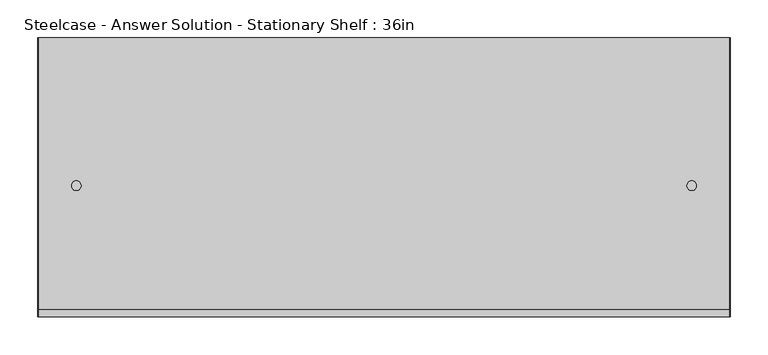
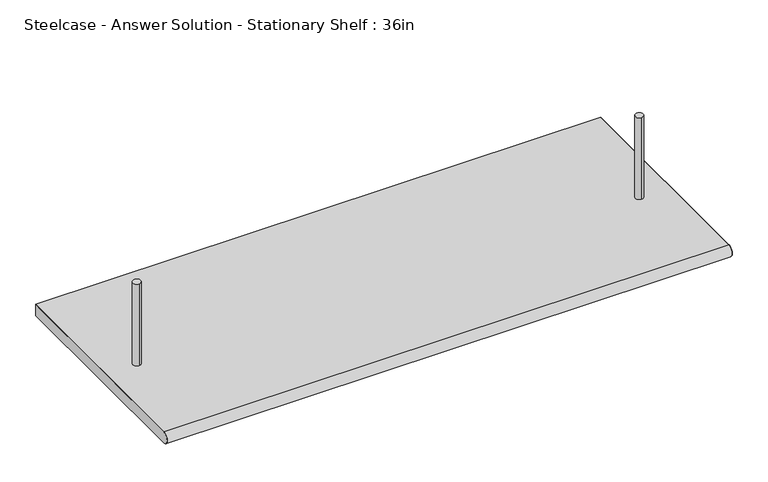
"""IFC4 building model written with IfcOpenShell, lengths in millimetres: furniture geometry, Steelcase - Answer Solution - Stationary Shelf : 36in."""

from ifc_helpers import new_model, si_unit, point, frame, frame_2d, origin, place, context, project, spatial, polyline, circle_curve, trimmed, segment, composite_curve, outline, extrude, source, transform, mapped, element, save


def steelcase_answer_solution_stationary_shelf_36in_bdb3d8c8(model_context):
    return source(origin(), model_context, "Body", "SweptSolid", [
        extrude(outline(composite_curve([segment(trimmed(circle_curve(frame_2d((863.6, -195.2625)), 6.35), [point((863.6, -201.6125))], [point((863.6, -188.9125))], False, "CARTESIAN"), True, "CONTINUOUS"), segment(trimmed(circle_curve(frame_2d((863.6, -195.2625)), 6.35), [point((863.6, -188.9125))], [point((863.6, -201.6125))], False, "CARTESIAN"), True, "CONTINUOUS")], self_intersect=False)), frame((0.0, 0.0, 1136.6500242), z_axis=(0.0, 0.0, 1.0), x_axis=(1.0, 0.0, 0.0)), (0.0, 0.0, 1.0), 139.6999758),
        extrude(outline(composite_curve([segment(trimmed(circle_curve(frame_2d((50.8, -195.2625)), 6.35), [point((50.8, -201.6125))], [point((50.8, -188.9125))], False, "CARTESIAN"), True, "CONTINUOUS"), segment(trimmed(circle_curve(frame_2d((50.8, -195.2625)), 6.35), [point((50.8, -188.9125))], [point((50.8, -201.6125))], False, "CARTESIAN"), True, "CONTINUOUS")], self_intersect=False)), frame((0.0, 0.0, 1136.6500242), z_axis=(0.0, 0.0, 1.0), x_axis=(1.0, 0.0, 0.0)), (0.0, 0.0, 1.0), 139.6999758),
        extrude(outline(composite_curve([segment(polyline([(-358.7557809, 1136.6500242), (0.0, 1136.6500242), (0.0, 1117.6000242), (-358.7557809, 1117.6000242)]), True, "CONTINUOUS"), segment(trimmed(circle_curve(frame_2d((-358.7557809, 1127.1250242)), 9.525), [point((-358.7557809, 1117.6000242))], [point((-358.7557809, 1136.6500242))], False, "CARTESIAN"), True, "CONTINUOUS")], self_intersect=False)), frame((914.199975, 0.0, 0.0), z_axis=(1.0, 0.0, 0.0), x_axis=(0.0, 1.0, 0.0)), (0.0, 0.0, 1.0), 0.200025),
        extrude(outline(composite_curve([segment(polyline([(-358.7557809, 1136.6500242), (0.0, 1136.6500242), (0.0, 1117.6000242), (-358.7557809, 1117.6000242)]), True, "CONTINUOUS"), segment(trimmed(circle_curve(frame_2d((-358.7557809, 1127.1250242)), 9.525), [point((-358.7557809, 1117.6000242))], [point((-358.7557809, 1136.6500242))], False, "CARTESIAN"), True, "CONTINUOUS")], self_intersect=False)), frame((0.0, 0.0, 0.0), z_axis=(1.0, 0.0, 0.0), x_axis=(0.0, 1.0, 0.0)), (0.0, 0.0, 1.0), 0.200025),
        extrude(outline(composite_curve([segment(polyline([(0.0, 1136.6500242), (0.0, 1117.6000242), (-358.7557809, 1117.6000242)]), True, "CONTINUOUS"), segment(trimmed(circle_curve(frame_2d((-358.7557809, 1127.1250242)), 9.525), [point((-358.7557809, 1117.6000242))], [point((-358.7557809, 1136.6500242))], False, "CARTESIAN"), True, "CONTINUOUS"), segment(polyline([(-358.7557809, 1136.6500242), (0.0, 1136.6500242)]), True, "CONTINUOUS")], self_intersect=False)), frame((0.200025, 0.0, 0.0), z_axis=(1.0, 0.0, 0.0), x_axis=(0.0, 1.0, 0.0)), (0.0, 0.0, 1.0), 913.99995),
    ])


if __name__ == "__main__":
    model = new_model("IFC4")
    model_context = context("Model", 3, world=origin())
    ifc_project = project(units=[si_unit("LENGTHUNIT", "METRE", prefix="MILLI")], contexts=[model_context])
    site = spatial("IfcSite", under=ifc_project)
    building = spatial("IfcBuilding", under=site)
    placement = place(None, origin())
    steelcase_answer_solution_stationary_shelf_36in_shape = steelcase_answer_solution_stationary_shelf_36in_bdb3d8c8(model_context)
    element("IfcFurniture", 1, ObjectType="Steelcase - Answer Solution - Stationary Shelf : 36in", at=placement, inside=building, context=model_context, shape_type="MappedRepresentation", body=[
        mapped(steelcase_answer_solution_stationary_shelf_36in_shape, transform((0.0, 0.0, 0.0), x_axis=(1.0, 0.0, 0.0), y_axis=(0.0, 1.0, 0.0), z_axis=(0.0, 0.0, 1.0))),
    ])
    save(model, "model.ifc")
